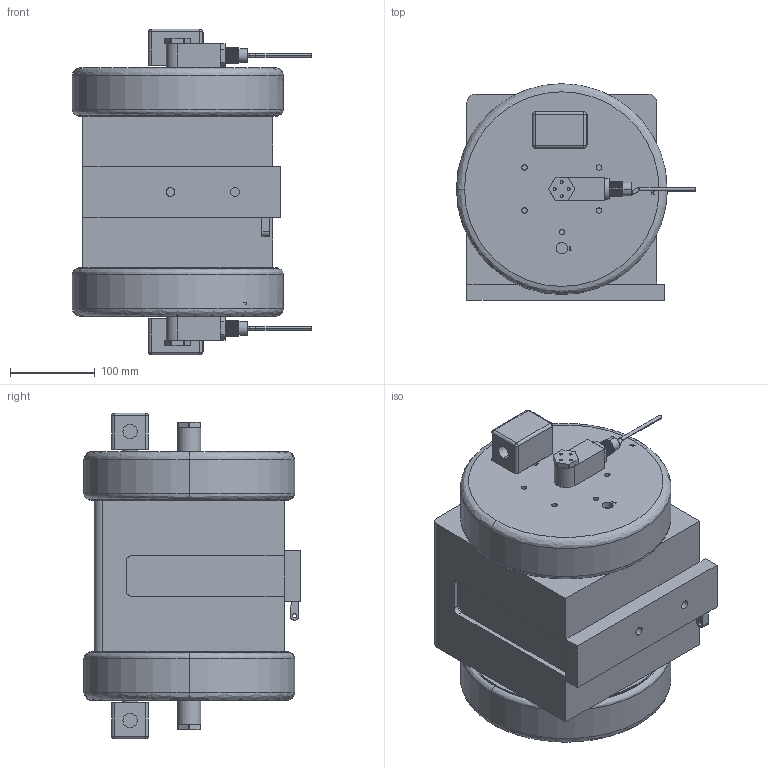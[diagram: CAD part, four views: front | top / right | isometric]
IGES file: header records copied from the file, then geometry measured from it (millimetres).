
Start section: SolidWorks IGES file using analytic representation for surfaces
Global section: file name: \\server\Users\Karen.Bodily\My Documents\PXU Defeatured\PXU140_solid model.IGS; native system: SolidWorks 2012; preprocessor: SolidWorks 2012; author: karen.bodily; date: 130725.083120; units: inch
Bounding box: 282.45 x 255.52 x 384.49 mm (x, y, z)
Volume: 14865024.2 mm3; surface area: 457037.8 mm2
Topology: 1 solids, 1 shells, 1361 faces, 3366 edges, 2158 vertices
Faces by surface type: plane 833, revolution 426, bspline 102
